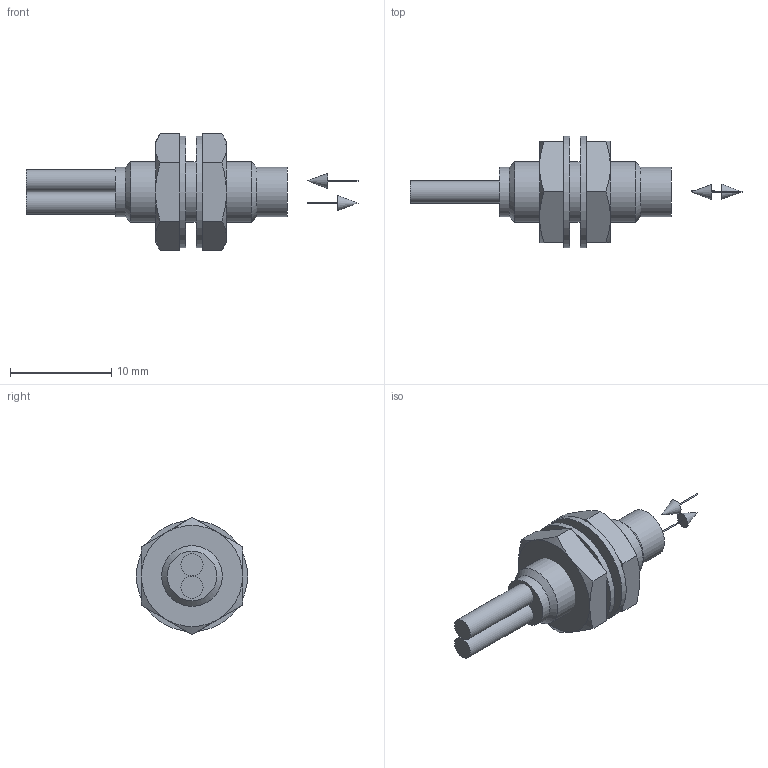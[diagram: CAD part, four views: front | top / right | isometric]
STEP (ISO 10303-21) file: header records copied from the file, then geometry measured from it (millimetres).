
FILE_DESCRIPTION( ( 'Unknown' ), '1' );
FILE_NAME( '//baumernet.org/ch01apps/SolidEdge/Models/Dokumentationen/Opto/Lichtleiter/Azbil/Fiber2014/Vereinfachte Modelle/Neutralformate/HPF-D022.stp', 'Unknown', ( 'Unknown' ), ( 'Unknown' ), 'PSStep 15.0.49', 'Unknown', ' ' );
FILE_SCHEMA( ( 'AUTOMOTIVE_DESIGN { 1 0 10303 214 1 1 1 1 }' ) );
Length unit declared in the file: millimetre
Products named in the file (7): Nut-AF10+Washer; AF10; Phi11-Th0.6; Assem1; HPF-D022
Assembly tree (7 placements, depth 3):
  Assem1
    HPF-D022
    HPF-D022
    HPF-D022
    Nut-AF10+Washer  x2
      AF10
      Phi11-Th0.6
Bounding box: 32.8 x 11 x 11.55 mm (x, y, z)
Volume: 894.4 mm3; surface area: 1302.7 mm2
Topology: 7 solids, 7 shells, 61 faces, 115 edges, 72 vertices
Faces by surface type: plane 30, cone 16, cylinder 15
Full cylindrical faces by diameter (mm): 0.1 x2, 1.5 x2, 2.2 x2, 4.9 x2, 5.188 x2, 6 x1, 6.4 x2, 11 x2
Entity records: 1410 total; most frequent: CARTESIAN_POINT 189, DIRECTION 178, ORIENTED_EDGE 112, AXIS2_PLACEMENT_3D 83, EDGE_LOOP 66, EDGE_CURVE 56, FACE_OUTER_BOUND 54, VERTEX_POINT 46
